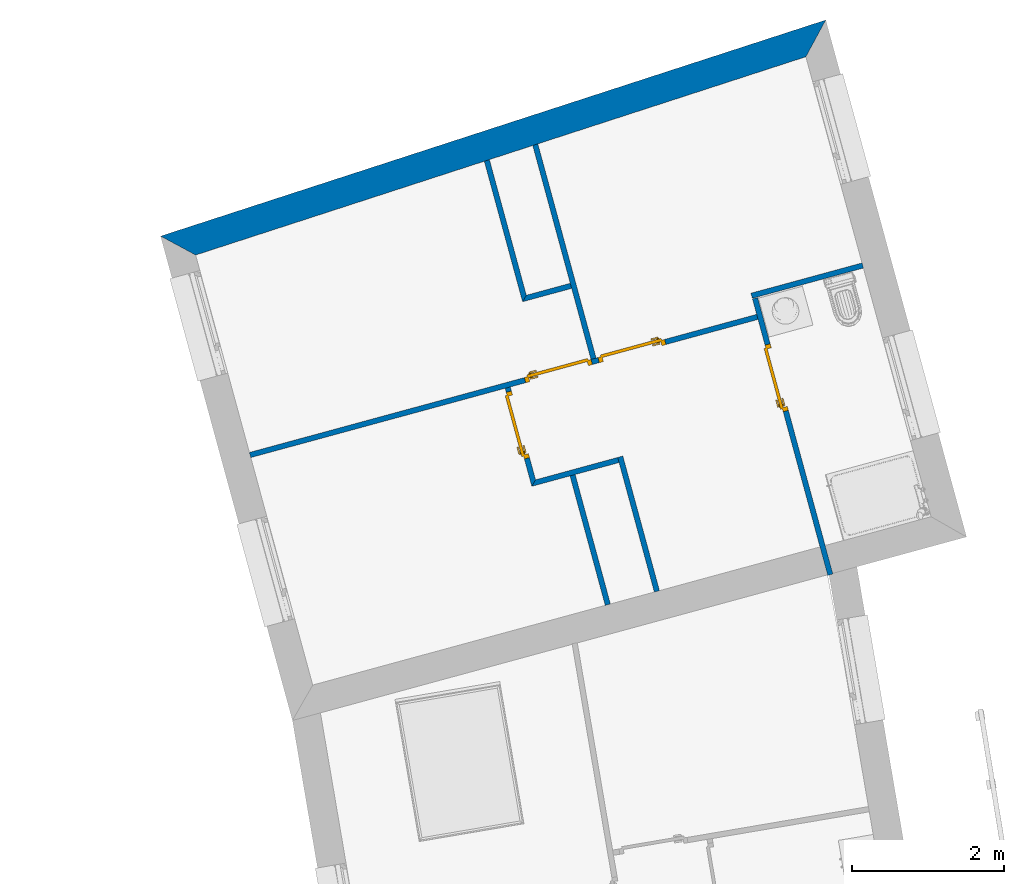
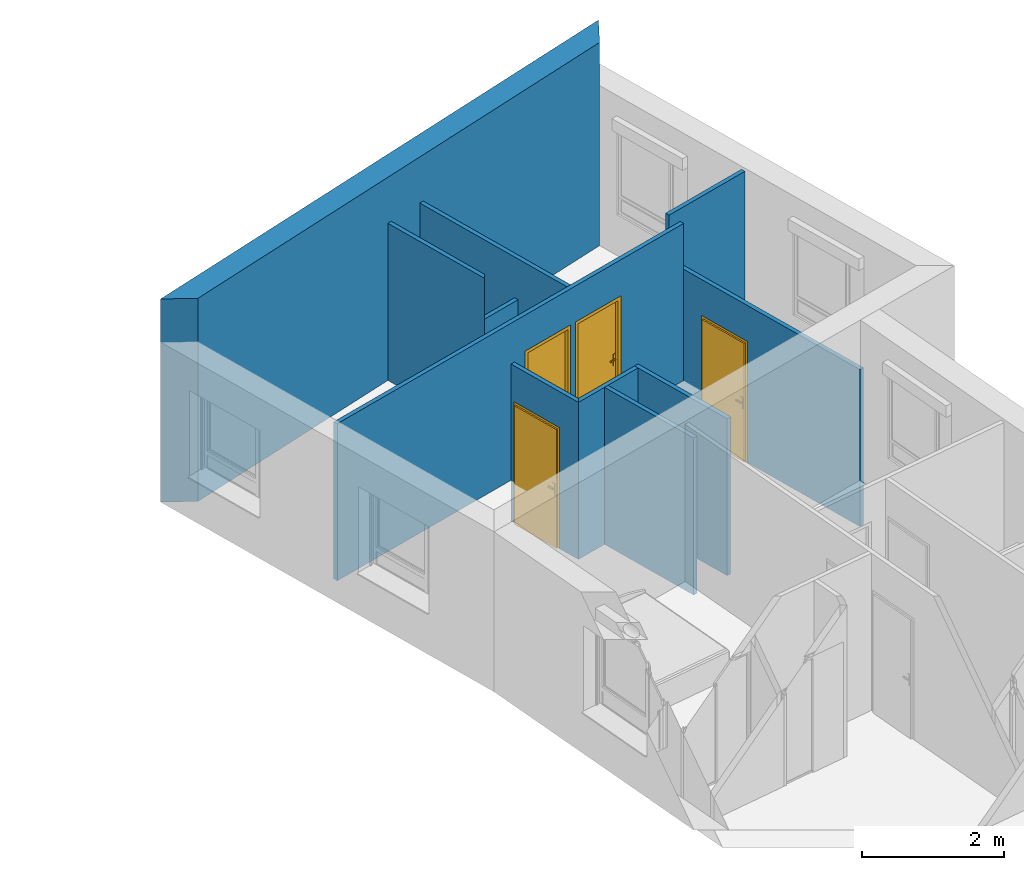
# One storey, part 81 of 121: 11 walls, 4 doors, 4 openings.
"""IFC2X3 building model written with IfcOpenShell, lengths in metres."""

from ifc_helpers import new_model, entity, si_unit, converted_unit, derived_unit, money_unit, direction, frame, origin_with_axes, origin_2d_with_axis, place, context, subcontext, project, spatial, polyline, rectangle, outline, extrude, faceted_brep, source, transform, mapped, material, layer, layer_set, layer_usage, type_object, element, fill, save


model = new_model("IFC2X3")

# Units and contexts
model_context = context("Model", 3, precision=1e-05, world=origin_with_axes(), true_north=direction((0.0, 1.0)))
body_context = subcontext(model_context, "Body", "Model", "MODEL_VIEW")
ifc_project = project(units=[si_unit("LENGTHUNIT", "METRE"), si_unit("AREAUNIT", "SQUARE_METRE"), si_unit("VOLUMEUNIT", "CUBIC_METRE"), converted_unit("PLANEANGLEUNIT", "DEGREE", entity("IfcPlaneAngleMeasure", 0.0174532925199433), si_unit("PLANEANGLEUNIT", "RADIAN"), dimensions=[0, 0, 0, 0, 0, 0, 0]), money_unit("CHF"), converted_unit("TIMEUNIT", "Year", entity("IfcTimeMeasure", 31557600.0), si_unit("TIMEUNIT", "SECOND"), dimensions=[0, 0, 1, 0, 0, 0, 0]), si_unit("MASSUNIT", "GRAM", prefix="KILO"), si_unit("THERMODYNAMICTEMPERATUREUNIT", "DEGREE_CELSIUS"), si_unit("LUMINOUSINTENSITYUNIT", "LUMEN"), si_unit("ENERGYUNIT", "JOULE", prefix="MEGA"), derived_unit("THERMALCONDUCTANCEUNIT", [(si_unit("POWERUNIT", "WATT"), 1), (si_unit("LENGTHUNIT", "METRE"), -1), (si_unit("THERMODYNAMICTEMPERATUREUNIT", "KELVIN"), -1)]), derived_unit("SPECIFICHEATCAPACITYUNIT", [(si_unit("ENERGYUNIT", "JOULE"), 1), (si_unit("MASSUNIT", "GRAM", prefix="KILO"), -1), (si_unit("THERMODYNAMICTEMPERATUREUNIT", "KELVIN"), -1)]), derived_unit("MASSDENSITYUNIT", [(si_unit("MASSUNIT", "GRAM", prefix="KILO"), 1), (si_unit("VOLUMEUNIT", "CUBIC_METRE"), -1)])], contexts=[model_context])

# Site, building, storey
site_placement = place(None, origin_with_axes())
site = spatial("IfcSite", under=ifc_project, at=site_placement, Name="Site", CompositionType="ELEMENT")
building_placement = place(site_placement, origin_with_axes())
building = spatial("IfcBuilding", under=site, at=building_placement, Name="Bâtiment", CompositionType="ELEMENT")
storey_placement = place(building_placement, frame((0.0, 0.0, 2.75), z_axis=(0.0, 0.0, 1.0), x_axis=(1.0, 0.0, 0.0)))
storey = spatial("IfcBuildingStorey", under=building, at=storey_placement, Name="Etage 1", CompositionType="ELEMENT", Elevation=2.75)

# Walls
ifc_material_1 = material(Name="Hachure solide 268963992")
ifc_layer_1 = layer(ifc_material_1, 0.07, ventilated="UNKNOWN")
ifc_layer_set_1 = layer_set([ifc_layer_1], Name="Cloison 70 0826278243")
ifc_layer_usage_1 = layer_usage(ifc_layer_set_1, "AXIS2", "POSITIVE", 0.0)
wall_type_1 = type_object("IfcWallType", Name="Cloison 70 0826278243 70", PredefinedType="NOTDEFINED")
wall_1_placement = place(storey_placement, frame((9583.053283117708, -1019.939587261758, 57.0), z_axis=(0.0, 0.0, 1.0), x_axis=(0.9648682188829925, 0.2627343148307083, 0.0)))
element("IfcWallStandardCase", 1, at=wall_1_placement, inside=storey, type_object=wall_type_1, material=ifc_layer_usage_1, Name="Mur-150", context=body_context, shape_type="SweptSolid", body=[
    extrude(outline(polyline([(-0.06999999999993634, 0.0), (1.121397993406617, 0.0), (1.121398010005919, 0.06999999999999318), (1.660555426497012e-08, 0.06999999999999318), (-0.06999999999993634, 0.0)])), origin_with_axes(), (0.0, 0.0, 1.0), 2.7),
])
ifc_layer_usage_2 = layer_usage(ifc_layer_set_1, "AXIS2", "POSITIVE", 0.0)
wall_2_placement = place(storey_placement, frame((9585.890357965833, -1017.481172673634, 57.7), z_axis=(0.0, 0.0, 1.0), x_axis=(0.9648682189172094, 0.2627343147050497, 0.0)))
element("IfcWallStandardCase", 2, at=wall_2_placement, inside=storey, type_object=wall_type_1, material=ifc_layer_usage_2, Name="Mur-150", context=body_context, shape_type="SweptSolid", body=[
    extrude(outline(polyline([(0.0, 0.0), (1.517035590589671, 0.0), (1.517035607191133, 0.07000000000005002), (0.0, 0.07000000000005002), (0.0, 0.0)])), origin_with_axes(), (0.0, 0.0, 1.0), 2.7),
])
ifc_layer_usage_3 = layer_usage(ifc_layer_set_1, "AXIS2", "NEGATIVE", 0.0)
wall_3_placement = place(storey_placement, frame((9582.964703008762, -1015.07966919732, 57.7), z_axis=(0.0, 0.0, 1.0), x_axis=(0.2627340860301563, -0.9648682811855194, 0.0)))
element("IfcWallStandardCase", 3, at=wall_3_placement, inside=storey, type_object=wall_type_1, material=ifc_layer_usage_3, Name="Mur-150", context=body_context, shape_type="SweptSolid", body=[
    extrude(outline(polyline([(0.3838284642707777, -0.07000000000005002), (3.304320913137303, -0.06999999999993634), (3.304320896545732, 0.0), (0.3804439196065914, 0.0), (0.3838284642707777, -0.07000000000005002)])), origin_with_axes(), (0.0, 0.0, 1.0), 2.7),
])
ifc_layer_usage_4 = layer_usage(ifc_layer_set_1, "AXIS2", "NEGATIVE", 0.0)
wall_4_placement = place(storey_placement, frame((9584.18443379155, -1019.559025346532, 57.0), z_axis=(0.0, 0.0, 1.0), x_axis=(0.2627340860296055, -0.9648682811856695, 0.0)))
element("IfcWallStandardCase", 4, at=wall_4_placement, inside=storey, type_object=wall_type_1, material=ifc_layer_usage_4, Name="Mur-150", context=body_context, shape_type="SweptSolid", body=[
    extrude(outline(polyline([(0.0, -0.06999999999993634), (1.837842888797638, -0.06999999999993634), (1.837842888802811, 0.0), (0.0, 0.0), (0.0, -0.06999999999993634)])), origin_with_axes(), (0.0, 0.0, 1.0), 2.7),
])

# Wall, openings, doors
ifc_layer_usage_5 = layer_usage(ifc_layer_set_1, "AXIS2", "POSITIVE", 0.0)
wall_5_placement = place(storey_placement, frame((9578.916323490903, -1019.679229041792, 57.7), z_axis=(0.0, 0.0, 1.0), x_axis=(0.9648682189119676, 0.2627343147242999, 0.0)))
wall_5 = element("IfcWallStandardCase", 5, at=wall_5_placement, inside=storey, type_object=wall_type_1, material=ifc_layer_usage_5, Name="Mur-150", context=body_context, shape_type="SweptSolid", body=[
    extrude(outline(polyline([(0.3799999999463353, 0.0), (7.306528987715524, 0.0), (7.306529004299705, 0.06999999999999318), (0.3800000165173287, 0.06999999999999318), (0.3799999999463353, 0.0)])), origin_with_axes(), (0.0, 0.0, 1.0), 2.7),
])
opening_1_placement = place(wall_5_placement, frame((5.594001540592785, 0.0, 0.0), z_axis=(0.0, 0.0, 1.0), x_axis=(1.0, 0.0, 0.0)))
opening_1 = element("IfcOpeningElement", 6, at=opening_1_placement, cuts=wall_5, Name="Por-304", context=body_context, shape_type="SweptSolid", body=[
    extrude(rectangle(XDim=0.9099999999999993, YDim=2.079999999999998, at=origin_2d_with_axis()), frame((0.0, -0.06999999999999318, 1.039999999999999), z_axis=(0.0, -1.0, 0.0), x_axis=(-1.0, 0.0, 0.0)), (0.0, 0.0, -1.0), 0.14),
])
opening_2_placement = place(wall_5_placement, frame((4.589614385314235, 0.0, 0.0), z_axis=(0.0, 0.0, 1.0), x_axis=(1.0, 0.0, 0.0)))
opening_2 = element("IfcOpeningElement", 7, at=opening_2_placement, cuts=wall_5, Name="Por-304", context=body_context, shape_type="SweptSolid", body=[
    extrude(rectangle(XDim=0.9099999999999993, YDim=2.079999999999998, at=origin_2d_with_axis()), frame((0.0, -0.06999999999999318, 1.039999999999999), z_axis=(0.0, 1.0, 0.0), x_axis=(1.0, 0.0, 0.0)), (0.0, 0.0, 1.0), 0.14),
])
door_style = type_object("IfcDoorStyle", Name="Porte_1v", ConstructionType="NOTDEFINED", OperationType="NOTDEFINED", ParameterTakesPrecedence=False, Sizeable=False)
shared_shape_1 = source(origin_with_axes(), body_context, "Body", "Brep", [
    faceted_brep([(0.455, 0.0, 0.0), (0.415, 0.0, 0.0), (0.415, 0.0, 2.04), (-0.415, 0.0, 2.04), (-0.415, 0.0, 0.0), (-0.455, 0.0, 0.0), (-0.455, 0.0, 2.08), (0.455, 0.0, 2.08), (0.455, -0.07, 0.0), (0.4, -0.07, 0.0), (0.4, -0.015, 0.0), (0.415, -0.015, 0.0), (0.415, -0.015, 2.04), (-0.415, -0.015, 2.04), (-0.415, -0.015, 0.0), (-0.4, -0.015, 0.0), (-0.4, -0.07, 0.0), (-0.455, -0.07, 0.0), (-0.455, -0.07, 2.08), (0.455, -0.07, 2.08), (-0.4, -0.07, 2.025), (0.4, -0.07, 2.025), (0.4, -0.015, 2.025), (-0.4, -0.015, 2.025)], [[[0, 1, 2, 3, 4, 5, 6, 7]], [[0, 8, 9, 10, 11, 1]], [[1, 11, 12, 2]], [[2, 12, 13, 3]], [[3, 13, 14, 4]], [[5, 4, 14, 15, 16, 17]], [[18, 6, 5, 17]], [[19, 7, 6, 18]], [[8, 0, 7, 19]], [[9, 8, 19, 18, 17, 16, 20, 21]], [[10, 9, 21, 22]], [[11, 10, 22, 23, 15, 14, 13, 12]], [[23, 20, 16, 15]], [[22, 21, 20, 23]]]),
    faceted_brep([(-0.35, -0.015, 0.9), (-0.39, -0.015, 0.9), (-0.39, -0.015, 1.1), (-0.35, -0.015, 1.1), (-0.35, -0.025, 0.9), (-0.39, -0.025, 0.9), (-0.39, -0.025, 1.1), (-0.35, -0.025, 1.1)], [[[0, 1, 2, 3]], [[1, 0, 4, 5]], [[2, 1, 5, 6]], [[3, 2, 6, 7]], [[0, 3, 7, 4]], [[5, 4, 7, 6]]]),
    faceted_brep([(-0.28, -0.025, 1.0), (-0.38, -0.025, 1.0), (-0.38, -0.025, 1.02), (-0.28, -0.025, 1.02), (-0.28, -0.045, 1.0), (-0.38, -0.045, 1.0), (-0.38, -0.045, 1.02), (-0.28, -0.045, 1.02)], [[[0, 1, 2, 3]], [[1, 0, 4, 5]], [[2, 1, 5, 6]], [[3, 2, 6, 7]], [[0, 3, 7, 4]], [[5, 4, 7, 6]]]),
    faceted_brep([(-0.35, 0.035, 0.9), (-0.39, 0.035, 0.9), (-0.39, 0.035, 1.1), (-0.35, 0.035, 1.1), (-0.35, 0.025, 0.9), (-0.39, 0.025, 0.9), (-0.39, 0.025, 1.1), (-0.35, 0.025, 1.1)], [[[0, 1, 2, 3]], [[1, 0, 4, 5]], [[2, 1, 5, 6]], [[3, 2, 6, 7]], [[0, 3, 7, 4]], [[5, 4, 7, 6]]]),
    faceted_brep([(-0.28, 0.05500000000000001, 1.0), (-0.38, 0.05500000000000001, 1.0), (-0.38, 0.05500000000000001, 1.02), (-0.28, 0.05500000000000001, 1.02), (-0.28, 0.035, 1.0), (-0.38, 0.035, 1.0), (-0.38, 0.035, 1.02), (-0.28, 0.035, 1.02)], [[[0, 1, 2, 3]], [[1, 0, 4, 5]], [[2, 1, 5, 6]], [[3, 2, 6, 7]], [[0, 3, 7, 4]], [[5, 4, 7, 6]]]),
    faceted_brep([(-0.415, 0.025, 0.0), (0.415, 0.025, 0.0), (0.415, -0.015, 0.0), (-0.415, -0.015, 0.0), (-0.415, 0.025, 2.04), (0.415, 0.025, 2.04), (0.415, -0.015, 2.04), (-0.415, -0.015, 2.04)], [[[0, 1, 2, 3]], [[0, 4, 5, 1]], [[1, 5, 6, 2]], [[3, 2, 6, 7]], [[4, 0, 3, 7]], [[5, 4, 7, 6]]]),
])
door_1_placement = place(opening_2_placement, frame((-0.4150000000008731, 0.0, 0.0), z_axis=(0.0, 0.0, 1.0), x_axis=(1.0, 0.0, 0.0)))
door_1 = element("IfcDoor", 8, at=door_1_placement, inside=storey, type_object=door_style, Name="Por-304", OverallHeight=2.04, OverallWidth=0.83, context=body_context, shape_type="MappedRepresentation", body=[
    mapped(shared_shape_1, transform((0.415000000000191, 0.06999999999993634, 0.0))),
])
fill(opening_2, door_1)
shared_shape_2 = source(origin_with_axes(), body_context, "Body", "Brep", [
    faceted_brep([(-0.455, 0.0, 0.0), (-0.455, 0.0, 2.08), (0.455, 0.0, 2.08), (0.455, 0.0, 0.0), (0.415, 0.0, 0.0), (0.415, 0.0, 2.04), (-0.415, 0.0, 2.04), (-0.415, 0.0, 0.0), (-0.455, -0.07, 0.0), (-0.455, -0.07, 2.08), (0.455, -0.07, 2.08), (0.455, -0.07, 0.0), (0.4, -0.07, 0.0), (0.4, -0.015, 0.0), (0.415, -0.015, 0.0), (0.415, -0.015, 2.04), (-0.415, -0.015, 2.04), (-0.415, -0.015, 0.0), (-0.4, -0.015, 0.0), (-0.4, -0.07, 0.0), (-0.4, -0.07, 2.025), (0.4, -0.07, 2.025), (0.4, -0.015, 2.025), (-0.4, -0.015, 2.025)], [[[0, 1, 2, 3, 4, 5, 6, 7]], [[8, 9, 1, 0]], [[9, 10, 2, 1]], [[10, 11, 3, 2]], [[3, 11, 12, 13, 14, 4]], [[5, 4, 14, 15]], [[6, 5, 15, 16]], [[7, 6, 16, 17]], [[0, 7, 17, 18, 19, 8]], [[19, 20, 21, 12, 11, 10, 9, 8]], [[22, 13, 12, 21]], [[17, 16, 15, 14, 13, 22, 23, 18]], [[18, 23, 20, 19]], [[23, 22, 21, 20]]]),
    faceted_brep([(0.35, -0.015, 0.9), (0.35, -0.015, 1.1), (0.39, -0.015, 1.1), (0.39, -0.015, 0.9), (0.35, -0.025, 0.9), (0.35, -0.025, 1.1), (0.39, -0.025, 1.1), (0.39, -0.025, 0.9)], [[[0, 1, 2, 3]], [[0, 4, 5, 1]], [[1, 5, 6, 2]], [[2, 6, 7, 3]], [[3, 7, 4, 0]], [[7, 6, 5, 4]]]),
    faceted_brep([(0.28, -0.025, 1.0), (0.28, -0.025, 1.02), (0.38, -0.025, 1.02), (0.38, -0.025, 1.0), (0.28, -0.045, 1.0), (0.28, -0.045, 1.02), (0.38, -0.045, 1.02), (0.38, -0.045, 1.0)], [[[0, 1, 2, 3]], [[0, 4, 5, 1]], [[1, 5, 6, 2]], [[2, 6, 7, 3]], [[3, 7, 4, 0]], [[7, 6, 5, 4]]]),
    faceted_brep([(0.35, 0.035, 0.9), (0.35, 0.035, 1.1), (0.39, 0.035, 1.1), (0.39, 0.035, 0.9), (0.35, 0.025, 0.9), (0.35, 0.025, 1.1), (0.39, 0.025, 1.1), (0.39, 0.025, 0.9)], [[[0, 1, 2, 3]], [[0, 4, 5, 1]], [[1, 5, 6, 2]], [[2, 6, 7, 3]], [[3, 7, 4, 0]], [[7, 6, 5, 4]]]),
    faceted_brep([(0.28, 0.05500000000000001, 1.0), (0.28, 0.05500000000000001, 1.02), (0.38, 0.05500000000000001, 1.02), (0.38, 0.05500000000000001, 1.0), (0.28, 0.035, 1.0), (0.28, 0.035, 1.02), (0.38, 0.035, 1.02), (0.38, 0.035, 1.0)], [[[0, 1, 2, 3]], [[0, 4, 5, 1]], [[1, 5, 6, 2]], [[2, 6, 7, 3]], [[3, 7, 4, 0]], [[7, 6, 5, 4]]]),
    faceted_brep([(0.415, 0.025, 0.0), (0.415, -0.015, 0.0), (-0.415, -0.015, 0.0), (-0.415, 0.025, 0.0), (0.415, 0.025, 2.04), (0.415, -0.015, 2.04), (-0.415, -0.015, 2.04), (-0.415, 0.025, 2.04)], [[[0, 1, 2, 3]], [[4, 5, 1, 0]], [[1, 5, 6, 2]], [[3, 2, 6, 7]], [[0, 3, 7, 4]], [[7, 6, 5, 4]]]),
])
door_2_placement = place(opening_1_placement, frame((-0.4150000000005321, 0.0, 0.0), z_axis=(0.0, 0.0, 1.0), x_axis=(1.0, 0.0, 0.0)))
door_2 = element("IfcDoor", 9, at=door_2_placement, inside=storey, type_object=door_style, Name="Por-304", OverallHeight=2.04, OverallWidth=0.83, context=body_context, shape_type="MappedRepresentation", body=[
    mapped(shared_shape_2, transform((0.4150000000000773, 0.06999999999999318, 0.0))),
])
fill(opening_1, door_2)

# Wall
ifc_layer_usage_6 = layer_usage(ifc_layer_set_1, "AXIS2", "POSITIVE", 0.0)
wall_6_placement = place(storey_placement, frame((9582.864084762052, -1017.526693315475, 57.0), z_axis=(0.0, 0.0, 1.0), x_axis=(0.9648682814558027, 0.2627340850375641, 0.0)))
element("IfcWallStandardCase", 10, at=wall_6_placement, inside=storey, type_object=wall_type_1, material=ifc_layer_usage_6, Name="Mur-150", context=body_context, shape_type="SweptSolid", body=[
    extrude(outline(polyline([(0.0, 0.0), (0.6699999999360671, 0.0), (0.669999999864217, 0.06999999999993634), (0.06999999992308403, 0.06999999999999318), (0.0, 0.0)])), origin_with_axes(), (0.0, 0.0, 1.0), 2.7),
])

# Wall, opening, door
ifc_layer_usage_7 = layer_usage(ifc_layer_set_1, "AXIS2", "POSITIVE", 0.0)
wall_7_placement = place(storey_placement, frame((9585.892596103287, -1017.489392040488, 56.91165495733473), z_axis=(0.0, 0.0, 1.0), x_axis=(0.2627340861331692, -0.9648682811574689, 0.0)))
wall_7 = element("IfcWallStandardCase", 11, at=wall_7_placement, inside=storey, type_object=wall_type_1, material=ifc_layer_usage_7, Name="Mur-150", context=body_context, shape_type="SweptSolid", body=[
    extrude(outline(polyline([(0.0, 0.0), (3.77449259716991, 0.0), (3.77449259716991, 0.06999999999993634), (0.0, 0.06999999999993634), (0.0, 0.0)])), origin_with_axes(), (0.0, 0.0, 1.0), 2.7),
])
opening_3_placement = place(wall_7_placement, frame((1.085641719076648, 0.0, 0.0), z_axis=(0.0, 0.0, 1.0), x_axis=(1.0, 0.0, 0.0)))
opening_3 = element("IfcOpeningElement", 12, at=opening_3_placement, cuts=wall_7, Name="Por-303", context=body_context, shape_type="SweptSolid", body=[
    extrude(rectangle(XDim=0.9099999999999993, YDim=2.079999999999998, at=origin_2d_with_axis()), frame((0.0, 0.07000000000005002, 1.039999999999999), z_axis=(0.0, -1.0, 0.0), x_axis=(-1.0, 0.0, 0.0)), (0.0, 0.0, 1.0), 0.14),
])
door_3_placement = place(opening_3_placement, frame((0.4149999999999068, 0.0, 0.0), z_axis=(0.0, 0.0, 1.0), x_axis=(-1.0, 0.0, 0.0)))
door_3 = element("IfcDoor", 13, at=door_3_placement, inside=storey, type_object=door_style, Name="Por-303", OverallHeight=2.04, OverallWidth=0.83, context=body_context, shape_type="MappedRepresentation", body=[
    mapped(shared_shape_1, transform((0.4150000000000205, 0.0, 0.0))),
])
fill(opening_3, door_3)

# Walls
ifc_layer_usage_8 = layer_usage(ifc_layer_set_1, "AXIS2", "POSITIVE", 0.0)
wall_8_placement = place(storey_placement, frame((9582.26010096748, -1015.308614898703, 57.7), z_axis=(0.0, 0.0, 1.0), x_axis=(0.2627340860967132, -0.964868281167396, 0.0)))
element("IfcWallStandardCase", 14, at=wall_8_placement, inside=storey, type_object=wall_type_1, material=ifc_layer_usage_8, Name="Mur-150", context=body_context, shape_type="SweptSolid", body=[
    extrude(outline(polyline([(0.3804439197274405, 0.0), (2.298840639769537, 0.0), (2.228840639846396, 0.07000000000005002), (0.3770593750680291, 0.07000000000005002), (0.3804439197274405, 0.0)])), origin_with_axes(), (0.0, 0.0, 1.0), 2.7),
])
ifc_layer_usage_9 = layer_usage(ifc_layer_set_1, "AXIS2", "NEGATIVE", 0.0)
wall_9_placement = place(storey_placement, frame((9583.537972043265, -1019.735057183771, 57.0), z_axis=(0.0, 0.0, 1.0), x_axis=(0.2627340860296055, -0.9648682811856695, 0.0)))
element("IfcWallStandardCase", 15, at=wall_9_placement, inside=storey, type_object=wall_type_1, material=ifc_layer_usage_9, Name="Mur-150", context=body_context, shape_type="SweptSolid", body=[
    extrude(outline(polyline([(0.0, -0.07000000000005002), (1.837842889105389, -0.06999999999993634), (1.837842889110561, 0.0), (0.0, 0.0), (0.0, -0.07000000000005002)])), origin_with_axes(), (0.0, 0.0, 1.0), 2.7),
])

# Wall, opening, door
ifc_layer_usage_10 = layer_usage(ifc_layer_set_1, "AXIS2", "NEGATIVE", 0.0)
wall_10_placement = place(storey_placement, frame((9582.70170999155, -1018.648465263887, 57.0), z_axis=(0.0, 0.0, 1.0), x_axis=(0.262734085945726, -0.9648682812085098, 0.0)))
wall_10 = element("IfcWallStandardCase", 16, at=wall_10_placement, inside=storey, type_object=wall_type_1, material=ifc_layer_usage_10, Name="Mur-150", context=body_context, shape_type="SweptSolid", body=[
    extrude(outline(polyline([(2.988888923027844e-07, -0.06999999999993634), (1.338132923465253, -0.07000000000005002), (1.268132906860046, 0.0), (2.822912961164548e-07, 0.0), (2.988888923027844e-07, -0.06999999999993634)])), origin_with_axes(), (0.0, 0.0, 1.0), 2.7),
])
opening_4_placement = place(wall_10_placement, frame((0.5100591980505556, 0.0, 0.0), z_axis=(0.0, 0.0, 1.0), x_axis=(1.0, 0.0, 0.0)))
opening_4 = element("IfcOpeningElement", 17, at=opening_4_placement, cuts=wall_10, Name="Por-302", context=body_context, shape_type="SweptSolid", body=[
    extrude(rectangle(XDim=0.9099999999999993, YDim=2.079999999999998, at=origin_2d_with_axis()), frame((0.0, 0.07000000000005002, 1.039999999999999), z_axis=(0.0, -1.0, 0.0), x_axis=(-1.0, 0.0, 0.0)), (0.0, 0.0, 1.0), 0.14),
])
door_4_placement = place(opening_4_placement, frame((0.4150000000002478, 0.0, 0.0), z_axis=(0.0, 0.0, 1.0), x_axis=(-1.0, 0.0, 0.0)))
door_4 = element("IfcDoor", 18, at=door_4_placement, inside=storey, type_object=door_style, Name="Por-302", OverallHeight=2.04, OverallWidth=0.83, context=body_context, shape_type="MappedRepresentation", body=[
    mapped(shared_shape_1, transform((0.4150000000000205, 0.06999999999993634, 0.0))),
])
fill(opening_4, door_4)

# Wall
ifc_material_2 = material(Name="Parpaing 312445824")
ifc_layer_2 = layer(ifc_material_2, 0.22, ventilated="UNKNOWN")
ifc_material_3 = material(Name="Isolant styromousse 301821074")
ifc_layer_3 = layer(ifc_material_3, 0.16, ventilated="UNKNOWN")
ifc_layer_set_2 = layer_set([ifc_layer_2, ifc_layer_3], Name="isol int 22+16 0836643197")
ifc_layer_usage_11 = layer_usage(ifc_layer_set_2, "AXIS2", "POSITIVE", 0.0)
wall_type_2 = type_object("IfcWallType", Name="isol int 22+16 0836643197 380", PredefinedType="NOTDEFINED")
wall_11_placement = place(storey_placement, frame((9586.85805817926, -1013.814604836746, 57.7), z_axis=(0.0, 0.0, 1.0), x_axis=(-0.951053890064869, -0.3090250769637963, 0.0)))
element("IfcWallStandardCase", 19, at=wall_11_placement, inside=storey, type_object=wall_type_2, material=ifc_layer_usage_11, Name="Mur-113", context=body_context, shape_type="SweptSolid", body=[
    extrude(outline(polyline([(0.0, 0.0), (9.21431627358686, 0.0), (8.8522455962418, 0.3800000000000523), (0.3988171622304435, 0.3800000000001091), (0.0, 0.0)])), origin_with_axes(), (0.0, 0.0, 1.0), 3.491716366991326),
])

save(model, "model.ifc")
